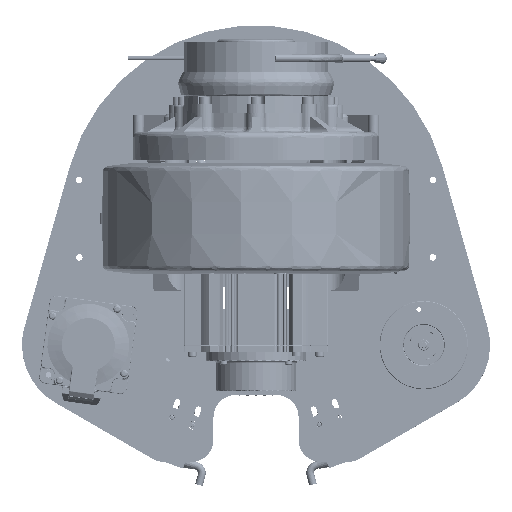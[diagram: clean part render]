
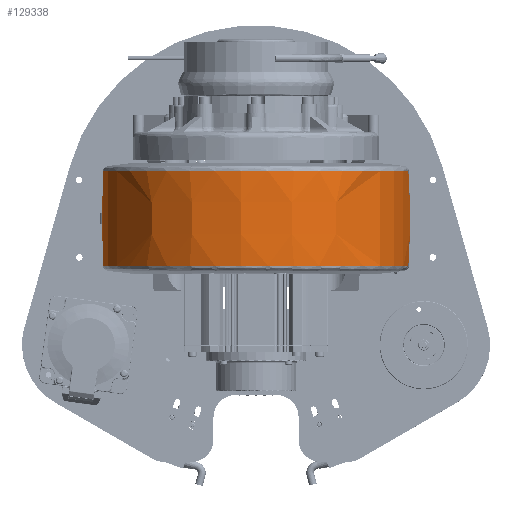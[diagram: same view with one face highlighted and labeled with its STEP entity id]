
A CAD part, top view. The second image highlights one B-rep face of the part: STEP entity #129338.
In plain terms, the highlighted free-form (B-spline) face has degree [3, 3] with [4, 4] control points.
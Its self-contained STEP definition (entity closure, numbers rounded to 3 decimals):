
#2915 = FACE_OUTER_BOUND ( 'NONE', #175667, .T. ) ;
#32066 =( BOUNDED_SURFACE ( )  B_SPLINE_SURFACE ( 3, 3, ( 
 ( #169481, #169510, #169515, #169518 ),
 ( #169522, #169525, #169529, #169531 ),
 ( #169535, #169538, #169541, #169544 ),
 ( #169548, #169553, #169555, #169558 ) ),
 .UNSPECIFIED., .F., .F., .F. ) 
 B_SPLINE_SURFACE_WITH_KNOTS ( ( 4, 4 ),
 ( 4, 4 ),
 ( 0., 1. ),
 ( 0., 1. ),
 .UNSPECIFIED. ) 
 GEOMETRIC_REPRESENTATION_ITEM ( )  RATIONAL_B_SPLINE_SURFACE ( (
 ( 1., 0.333, 0.333, 1.),
 ( 0.998, 0.333, 0.333, 0.998),
 ( 0.998, 0.333, 0.333, 0.998),
 ( 1., 0.333, 0.333, 1.) ) ) 
 REPRESENTATION_ITEM ( '' )  SURFACE ( )  );
#36947 = VERTEX_POINT ( 'NONE', #121312 ) ;
#36948 = VERTEX_POINT ( 'NONE', #121314 ) ;
#40425 = EDGE_CURVE ( 'NONE', #69374, #36948, #145426, .T. ) ;
#40427 = EDGE_CURVE ( 'NONE', #36947, #36948, #145435, .T. ) ;
#40429 = EDGE_CURVE ( 'NONE', #69343, #36947, #145437, .T. ) ;
#40435 = EDGE_CURVE ( 'NONE', #69374, #69343, #145445, .T. ) ;
#62411 = ORIENTED_EDGE ( 'NONE', *, *, #40425, .F. ) ;
#62424 = ORIENTED_EDGE ( 'NONE', *, *, #40427, .T. ) ;
#62441 = ORIENTED_EDGE ( 'NONE', *, *, #40429, .T. ) ;
#62462 = ORIENTED_EDGE ( 'NONE', *, *, #40435, .T. ) ;
#69343 = VERTEX_POINT ( 'NONE', #99992 ) ;
#69374 = VERTEX_POINT ( 'NONE', #100039 ) ;
#76294 = CARTESIAN_POINT ( 'NONE',  ( 404.785, 55.066, 45.278 ) ) ;
#76296 = DIRECTION ( 'NONE',  ( 0.098, 0., -0.995 ) ) ;
#76297 = DIRECTION ( 'NONE',  ( -0.995, 0., -0.098 ) ) ;
#76310 = CARTESIAN_POINT ( 'NONE',  ( -52.981, 97.958, 0. ) ) ;
#76312 = DIRECTION ( 'NONE',  ( 0., -1., 0. ) ) ;
#76314 = DIRECTION ( 'NONE',  ( -0.995, 0., -0.098 ) ) ;
#76321 = CARTESIAN_POINT ( 'NONE',  ( -510.747, 55.066, -45.278 ) ) ;
#76323 = DIRECTION ( 'NONE',  ( -0.098, 0., 0.995 ) ) ;
#76325 = DIRECTION ( 'NONE',  ( 0.995, 0., 0.098 ) ) ;
#76359 = CARTESIAN_POINT ( 'NONE',  ( -52.981, 12.174, 0. ) ) ;
#76361 = DIRECTION ( 'NONE',  ( 0., 1., 0. ) ) ;
#76362 = DIRECTION ( 'NONE',  ( -0.995, 0., -0.098 ) ) ;
#99992 = CARTESIAN_POINT ( 'NONE',  ( 84.812, 12.174, 13.629 ) ) ;
#100039 = CARTESIAN_POINT ( 'NONE',  ( -190.773, 12.174, -13.629 ) ) ;
#121312 = CARTESIAN_POINT ( 'NONE',  ( 84.812, 97.958, 13.629 ) ) ;
#121314 = CARTESIAN_POINT ( 'NONE',  ( -190.773, 97.958, -13.629 ) ) ;
#129338 = ADVANCED_FACE ( 'NONE', ( #2915 ), #32066, .T. ) ;
#145426 = CIRCLE ( 'NONE', #146549, 600. ) ;
#145435 = CIRCLE ( 'NONE', #146551, 138.465 ) ;
#145437 = CIRCLE ( 'NONE', #146552, 600. ) ;
#145445 = CIRCLE ( 'NONE', #146556, 138.465 ) ;
#146549 = AXIS2_PLACEMENT_3D ( 'NONE', #76294, #76296, #76297 ) ;
#146551 = AXIS2_PLACEMENT_3D ( 'NONE', #76310, #76312, #76314 ) ;
#146552 = AXIS2_PLACEMENT_3D ( 'NONE', #76321, #76323, #76325 ) ;
#146556 = AXIS2_PLACEMENT_3D ( 'NONE', #76359, #76361, #76362 ) ;
#169481 = CARTESIAN_POINT ( 'NONE',  ( 84.812, 12.174, 13.629 ) ) ;
#169510 = CARTESIAN_POINT ( 'NONE',  ( 57.553, 12.174, 289.214 ) ) ;
#169515 = CARTESIAN_POINT ( 'NONE',  ( -218.032, 12.174, 261.956 ) ) ;
#169518 = CARTESIAN_POINT ( 'NONE',  ( -190.773, 12.174, -13.629 ) ) ;
#169522 = CARTESIAN_POINT ( 'NONE',  ( 86.849, 40.744, 13.831 ) ) ;
#169525 = CARTESIAN_POINT ( 'NONE',  ( 59.188, 40.744, 293.491 ) ) ;
#169529 = CARTESIAN_POINT ( 'NONE',  ( -220.473, 40.744, 265.83 ) ) ;
#169531 = CARTESIAN_POINT ( 'NONE',  ( -192.811, 40.744, -13.831 ) ) ;
#169535 = CARTESIAN_POINT ( 'NONE',  ( 86.849, 69.388, 13.831 ) ) ;
#169538 = CARTESIAN_POINT ( 'NONE',  ( 59.188, 69.388, 293.491 ) ) ;
#169541 = CARTESIAN_POINT ( 'NONE',  ( -220.473, 69.388, 265.83 ) ) ;
#169544 = CARTESIAN_POINT ( 'NONE',  ( -192.811, 69.388, -13.831 ) ) ;
#169548 = CARTESIAN_POINT ( 'NONE',  ( 84.812, 97.958, 13.629 ) ) ;
#169553 = CARTESIAN_POINT ( 'NONE',  ( 57.553, 97.958, 289.214 ) ) ;
#169555 = CARTESIAN_POINT ( 'NONE',  ( -218.032, 97.958, 261.956 ) ) ;
#169558 = CARTESIAN_POINT ( 'NONE',  ( -190.773, 97.958, -13.629 ) ) ;
#175667 = EDGE_LOOP ( 'NONE', ( #62462, #62441, #62424, #62411 ) ) ;
